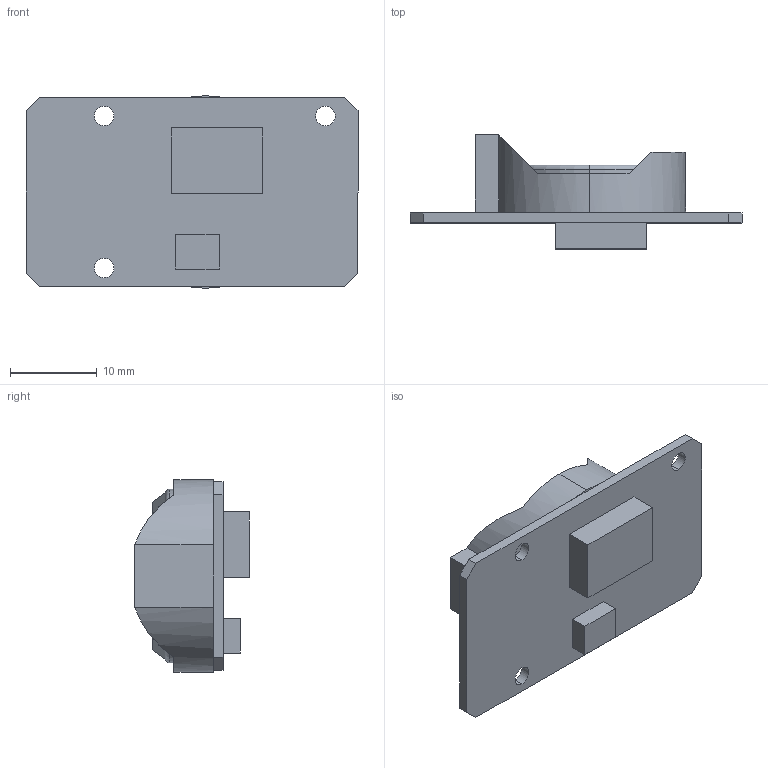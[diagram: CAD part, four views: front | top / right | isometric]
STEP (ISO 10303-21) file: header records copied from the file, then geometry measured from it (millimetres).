
FILE_DESCRIPTION (( 'STEP AP214' ), '1' );
FILE_NAME ('RTC_PCB.STEP', '2015-02-27T03:06:46', ( '' ), ( '' ), '', '', '' );
FILE_SCHEMA (( '' ));
Length unit declared in the file: millimetre
Products named in the file (1): RTC_PCB
Bounding box: 38.25 x 13.15 x 22.15 mm (x, y, z)
Volume: 3419.6 mm3; surface area: 3291.6 mm2
Topology: 1 solids, 1 shells, 61 faces, 157 edges, 102 vertices
Faces by surface type: plane 45, cylinder 14, torus 2
Entity records: 2498 total; most frequent: CARTESIAN_POINT 345, ORIENTED_EDGE 314, DIRECTION 313, EDGE_CURVE 157, VECTOR 109, LINE 109, VERTEX_POINT 102, AXIS2_PLACEMENT_3D 102
